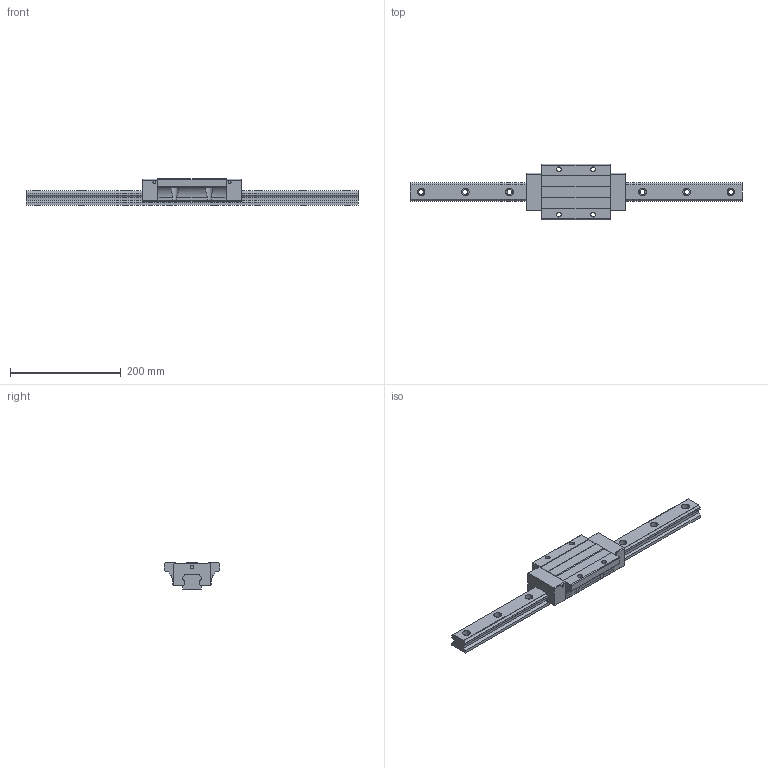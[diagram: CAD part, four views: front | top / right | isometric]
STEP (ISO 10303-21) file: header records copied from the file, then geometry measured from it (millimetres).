
FILE_DESCRIPTION (( 'STEP AP203' ), '1' );
FILE_NAME ('TRH35FE-DU.STEP', '2024-07-04T06:27:04', ( '' ), ( '' ), 'SwSTEP 2.0', 'SolidWorks 2022', '' );
FILE_SCHEMA (( 'CONFIG_CONTROL_DESIGN' ));
Length unit declared in the file: millimetre
Products named in the file (1): TRH35FE-DU
Bounding box: 600 x 100 x 48 mm (x, y, z)
Volume: 888771.2 mm3; surface area: 143366.4 mm2
Topology: 2 solids, 2 shells, 212 faces, 580 edges, 386 vertices
Faces by surface type: cylinder 112, plane 100
Entity records: 7449 total; most frequent: CARTESIAN_POINT 1801, DIRECTION 1174, ORIENTED_EDGE 1160, EDGE_CURVE 580, AXIS2_PLACEMENT_3D 409, VERTEX_POINT 386, LINE 356, VECTOR 356
